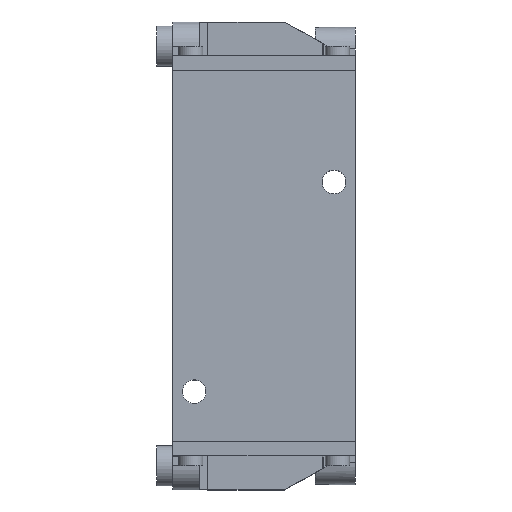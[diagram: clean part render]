
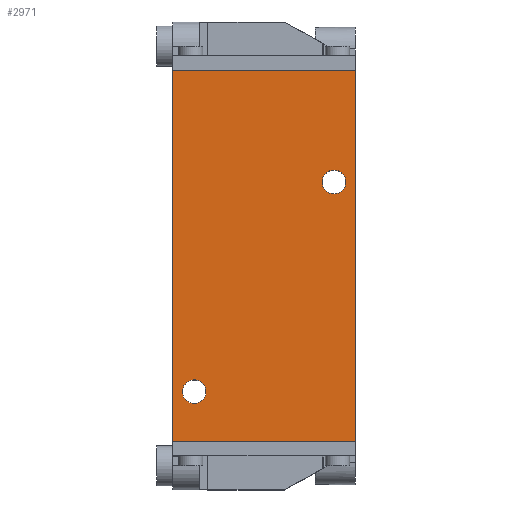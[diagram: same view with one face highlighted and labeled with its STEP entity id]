
A CAD part, top view. The second image highlights one B-rep face of the part: STEP entity #2971.
In plain terms, the highlighted planar face has unit normal (0, 0, 1).
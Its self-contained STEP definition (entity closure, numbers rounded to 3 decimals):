
#542=CARTESIAN_POINT('',(26.,27.5,20.));
#543=DIRECTION('',(0.,0.,-1.));
#544=DIRECTION('',(1.,0.,0.));
#545=AXIS2_PLACEMENT_3D('',#542,#543,#544);
#547=CARTESIAN_POINT('',(26.,27.5,20.));
#548=DIRECTION('',(0.,0.,-1.));
#549=DIRECTION('',(-1.,0.,0.));
#550=AXIS2_PLACEMENT_3D('',#547,#548,#549);
#552=CARTESIAN_POINT('',(-26.,-50.5,20.));
#553=DIRECTION('',(0.,0.,-1.));
#554=DIRECTION('',(1.,0.,0.));
#555=AXIS2_PLACEMENT_3D('',#552,#553,#554);
#557=CARTESIAN_POINT('',(-26.,-50.5,20.));
#558=DIRECTION('',(0.,0.,-1.));
#559=DIRECTION('',(-1.,0.,0.));
#560=AXIS2_PLACEMENT_3D('',#557,#558,#559);
#562=DIRECTION('',(0.,-1.,0.));
#563=VECTOR('',#562,138.);
#564=CARTESIAN_POINT('',(-34.,69.,20.));
#565=LINE('92',#564,#563);
#566=DIRECTION('',(-1.,0.,0.));
#567=VECTOR('',#566,68.);
#568=CARTESIAN_POINT('',(34.,69.,20.));
#569=LINE('95',#568,#567);
#570=DIRECTION('',(0.,1.,0.));
#571=VECTOR('',#570,138.);
#572=CARTESIAN_POINT('',(34.,-69.,20.));
#573=LINE('94',#572,#571);
#574=DIRECTION('',(1.,0.,0.));
#575=VECTOR('',#574,68.);
#576=CARTESIAN_POINT('',(-34.,-69.,20.));
#577=LINE('93',#576,#575);
#1784=CARTESIAN_POINT('',(-34.,69.,20.));
#1785=CARTESIAN_POINT('',(-34.,-69.,20.));
#1786=VERTEX_POINT('',#1784);
#1787=VERTEX_POINT('',#1785);
#1788=CARTESIAN_POINT('',(34.,-69.,20.));
#1789=VERTEX_POINT('',#1788);
#1790=CARTESIAN_POINT('',(34.,69.,20.));
#1791=VERTEX_POINT('',#1790);
#2285=CARTESIAN_POINT('',(30.4,27.5,20.));
#2286=CARTESIAN_POINT('',(21.6,27.5,20.));
#2287=VERTEX_POINT('',#2285);
#2288=VERTEX_POINT('',#2286);
#2289=CARTESIAN_POINT('',(-21.6,-50.5,20.));
#2290=CARTESIAN_POINT('',(-30.4,-50.5,20.));
#2291=VERTEX_POINT('',#2289);
#2292=VERTEX_POINT('',#2290);
#2947=CARTESIAN_POINT('',(0.,0.,20.));
#2948=DIRECTION('',(0.,0.,1.));
#2949=DIRECTION('',(1.,0.,0.));
#2950=AXIS2_PLACEMENT_3D('',#2947,#2948,#2949);
#2951=PLANE('91',#2950);
#2953=ORIENTED_EDGE('92',*,*,#2952,.F.);
#2955=ORIENTED_EDGE('95',*,*,#2954,.F.);
#2957=ORIENTED_EDGE('94',*,*,#2956,.F.);
#2958=ORIENTED_EDGE('93',*,*,#2878,.F.);
#2959=EDGE_LOOP('91',(#2953,#2955,#2957,#2958));
#2960=FACE_OUTER_BOUND('91',#2959,.F.);
#2961=ORIENTED_EDGE('19192',*,*,#2927,.F.);
#2962=ORIENTED_EDGE('19193',*,*,#2941,.F.);
#2963=EDGE_LOOP('91',(#2961,#2962));
#2964=FACE_BOUND('91',#2963,.F.);
#2966=ORIENTED_EDGE('19194',*,*,#2965,.F.);
#2968=ORIENTED_EDGE('19195',*,*,#2967,.F.);
#2969=EDGE_LOOP('91',(#2966,#2968));
#2970=FACE_BOUND('91',#2969,.F.);
#2971=ADVANCED_FACE('91',(#2960,#2964,#2970),#2951,.T.);
#546=CIRCLE('19192',#545,4.4);
#551=CIRCLE('19193',#550,4.4);
#556=CIRCLE('19194',#555,4.4);
#561=CIRCLE('19195',#560,4.4);
#2878=EDGE_CURVE('93',#1787,#1789,#577,.T.);
#2927=EDGE_CURVE('19192',#2287,#2288,#546,.T.);
#2941=EDGE_CURVE('19193',#2288,#2287,#551,.T.);
#2952=EDGE_CURVE('92',#1786,#1787,#565,.T.);
#2954=EDGE_CURVE('95',#1791,#1786,#569,.T.);
#2956=EDGE_CURVE('94',#1789,#1791,#573,.T.);
#2965=EDGE_CURVE('19194',#2291,#2292,#556,.T.);
#2967=EDGE_CURVE('19195',#2292,#2291,#561,.T.);
